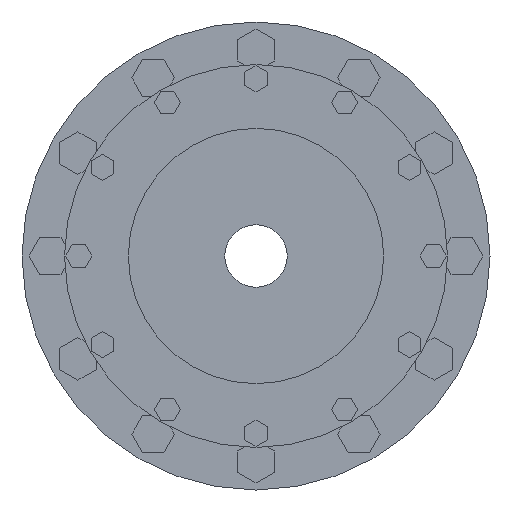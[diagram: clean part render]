
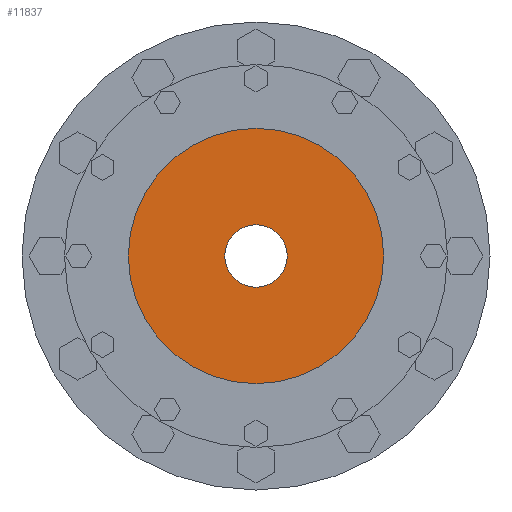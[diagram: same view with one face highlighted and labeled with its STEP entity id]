
A CAD part, left-side view. The second image highlights one B-rep face of the part: STEP entity #11837.
In plain terms, the highlighted planar face has unit normal (-1, 0, 0) as drawn and (1, 0, 0) by its records, which use the part's own axes.
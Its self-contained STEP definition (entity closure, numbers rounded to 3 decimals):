
#11661=CARTESIAN_POINT('',(-3.,0.,0.));
#11662=DIRECTION('',(1.,0.,0.));
#11663=DIRECTION('',(0.,1.,0.));
#11664=AXIS2_PLACEMENT_3D('',#11661,#11662,#11663);
#11671=CARTESIAN_POINT('',(-3.,0.,0.));
#11672=DIRECTION('',(-1.,0.,0.));
#11673=DIRECTION('',(0.,1.,0.));
#11674=AXIS2_PLACEMENT_3D('',#11671,#11672,#11673);
#11676=CARTESIAN_POINT('',(-3.,0.,0.));
#11677=DIRECTION('',(1.,0.,0.));
#11678=DIRECTION('',(0.,1.,0.));
#11679=AXIS2_PLACEMENT_3D('',#11676,#11677,#11678);
#11755=CARTESIAN_POINT('',(-3.,0.,0.));
#11756=DIRECTION('',(1.,0.,0.));
#11757=DIRECTION('',(0.,-1.,0.));
#11758=AXIS2_PLACEMENT_3D('',#11755,#11756,#11757);
#11782=CARTESIAN_POINT('',(-3.,45.,0.));
#11784=VERTEX_POINT('',#11782);
#11786=CARTESIAN_POINT('',(-3.,-45.,0.));
#11788=VERTEX_POINT('',#11786);
#11793=CARTESIAN_POINT('',(-3.,11.,0.));
#11794=CARTESIAN_POINT('',(-3.,-11.,0.));
#11795=VERTEX_POINT('',#11793);
#11796=VERTEX_POINT('',#11794);
#11821=CARTESIAN_POINT('',(-3.,0.,0.));
#11822=DIRECTION('',(1.,0.,0.));
#11823=DIRECTION('',(0.,-1.,0.));
#11824=AXIS2_PLACEMENT_3D('',#11821,#11822,#11823);
#11825=PLANE('',#11824);
#11827=ORIENTED_EDGE('',*,*,#11826,.T.);
#11829=ORIENTED_EDGE('',*,*,#11828,.F.);
#11830=EDGE_LOOP('',(#11827,#11829));
#11831=FACE_OUTER_BOUND('',#11830,.F.);
#11832=ORIENTED_EDGE('',*,*,#11810,.T.);
#11834=ORIENTED_EDGE('',*,*,#11833,.T.);
#11835=EDGE_LOOP('',(#11832,#11834));
#11836=FACE_BOUND('',#11835,.F.);
#11837=ADVANCED_FACE('',(#11831,#11836),#11825,.T.);
#11665=CIRCLE('',#11664,11.);
#11675=CIRCLE('',#11674,45.);
#11680=CIRCLE('',#11679,45.);
#11759=CIRCLE('',#11758,11.);
#11810=EDGE_CURVE('',#11795,#11796,#11665,.T.);
#11826=EDGE_CURVE('',#11784,#11788,#11675,.T.);
#11828=EDGE_CURVE('',#11784,#11788,#11680,.T.);
#11833=EDGE_CURVE('',#11796,#11795,#11759,.T.);
